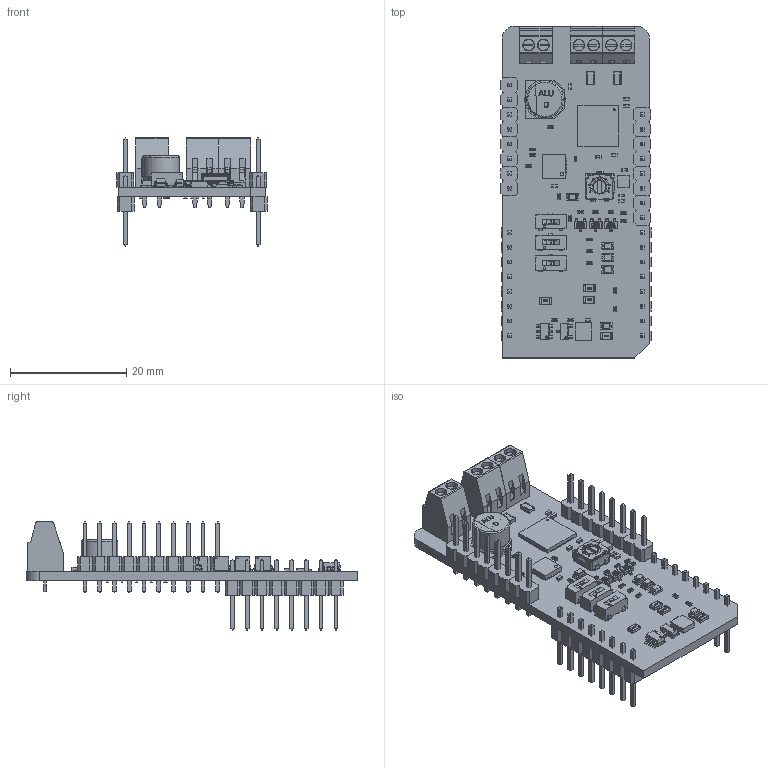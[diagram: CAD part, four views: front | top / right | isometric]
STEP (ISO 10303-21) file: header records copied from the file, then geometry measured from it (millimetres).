
FILE_DESCRIPTION(('Open CASCADE Model'),'2;1');
FILE_NAME('Open CASCADE Shape Model','2026-01-26T11:52:02',('Author'),( 'Open CASCADE'),'Open CASCADE STEP processor 6.8','Open CASCADE 6.8' ,'Unknown');
FILE_SCHEMA(('AUTOMOTIVE_DESIGN { 1 0 10303 214 1 1 1 1 }'));
Length unit declared in the file: millimetre
Products named in the file (127): PCB; Board; R34; Resistor_0201; R33; R32; R31; R30; R29; R28; R27; R26; R25; R24; R3; User_Library-R_0402; U3; User_Library-QFN48_7x7; MBD1; Header_1x8; Free-Models; 1240637040; User_Library-PinHeaderX5-1_PinHeaderX5_Body_1; User_Library-PinHeaderX5-1_PinHeaderX5_Pins_1; JP1; User_Library-R_0805; U2; User_Library-SOT23-6-2; U1; 1074800104; Extruded; Q1; SOT23-3; R4; C1; User_Library-SMD_CAPACITOR0402; R2; LD1; led_0805_green; R1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
Assembly tree (188 placements, depth 7):
  PCB
    Board
    R34
      Resistor_0201
    R33
      Resistor_0201
    R32
      Resistor_0201
    R31
      Resistor_0201
    R30
      Resistor_0201
    R29
      Resistor_0201
    R28
      Resistor_0201
    R27
      Resistor_0201
    R26
      Resistor_0201
    R25
      Resistor_0201
    R24
      Resistor_0201
    R3
      User_Library-R_0402
    U3
      User_Library-QFN48_7x7
    MBD1
      Header_1x8  x2
        PCB
          Free-Models
            1240637040  x2
              User_Library-PinHeaderX5-1_PinHeaderX5_Body_1
              User_Library-PinHeaderX5-1_PinHeaderX5_Pins_1
    JP1
      User_Library-R_0805
    U2
      User_Library-SOT23-6-2
    U1
      1074800104
        Extruded
    Q1
      SOT23-3
    R4
      User_Library-R_0402
    C1
      User_Library-SMD_CAPACITOR0402
    R2
      User_Library-R_0402
    LD1
      led_0805_green
    R1
      User_Library-R_0805
    C2
      User_Library-SMD_CAPACITOR0402
    C3
      User_Library-SMD_CAPACITOR0402
    C4
      User_Library-ALU-D
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Bounding box: 25.84 x 57.15 x 18.62 mm (x, y, z)
Volume: 4145.4 mm3; surface area: 8781.3 mm2
Topology: 271 solids, 271 shells, 8665 faces, 22044 edges, 14153 vertices
Faces by surface type: plane 5461, bspline 2176, cylinder 914, sphere 108, cone 2, revolution 2, torus 2
Full cylindrical faces by diameter (mm): 0.2 x1, 1.8 x1, 2.5 x1, 3.2 x1, 3.8 x1
Entity records: 109838 total; most frequent: CARTESIAN_POINT 25329, ORIENTED_EDGE 14330, DIRECTION 12086, EDGE_CURVE 7165, LINE 5344, VECTOR 5344, VERTEX_POINT 4659, AXIS2_PLACEMENT_3D 3370
